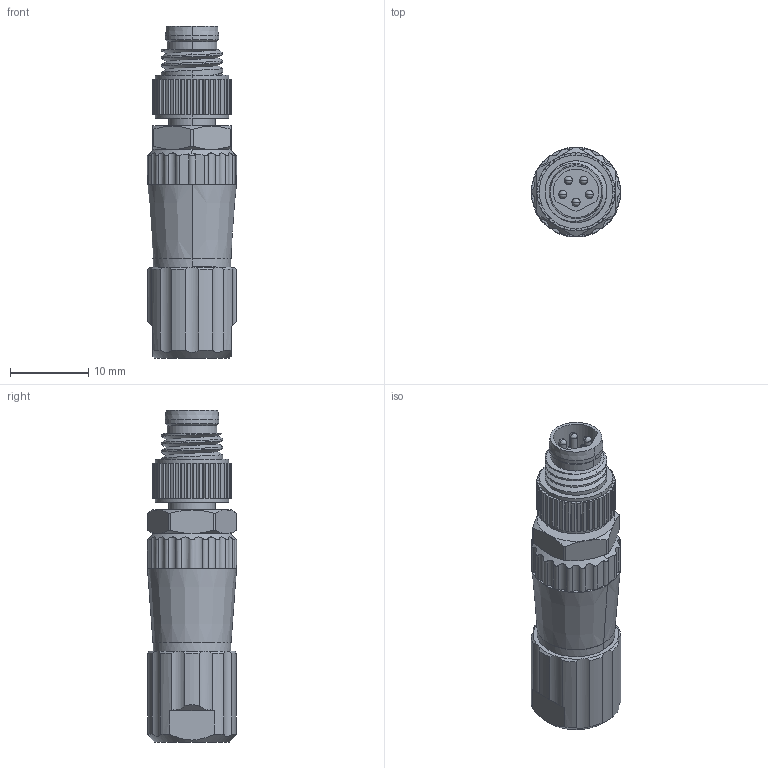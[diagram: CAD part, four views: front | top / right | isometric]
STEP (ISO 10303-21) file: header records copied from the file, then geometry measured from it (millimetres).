
FILE_DESCRIPTION (( 'STEP AP203' ), '1' );
FILE_NAME ('854-B05-103RKT4.STEP', '2024-08-30T13:54:36', ( '' ), ( '' ), 'SwSTEP 2.0', 'SolidWorks 2020', '' );
FILE_SCHEMA (( 'CONFIG_CONTROL_DESIGN' ));
Length unit declared in the file: millimetre
Products named in the file (1): 854-B05-103RKT4
Bounding box: 11.48 x 11.4 x 42.5 mm (x, y, z)
Volume: 2602.9 mm3; surface area: 4204.7 mm2
Topology: 12 solids, 12 shells, 745 faces, 2105 edges, 1350 vertices
Faces by surface type: cylinder 304, plane 236, bspline 118, cone 87
Entity records: 56147 total; most frequent: CARTESIAN_POINT 38943, ORIENTED_EDGE 4150, DIRECTION 2750, EDGE_CURVE 2075, VERTEX_POINT 1350, AXIS2_PLACEMENT_3D 1072, B_SPLINE_CURVE_WITH_KNOTS 1004, EDGE_LOOP 801
